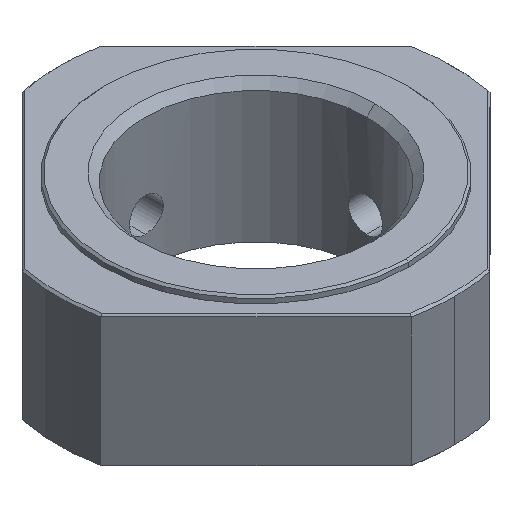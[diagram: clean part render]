
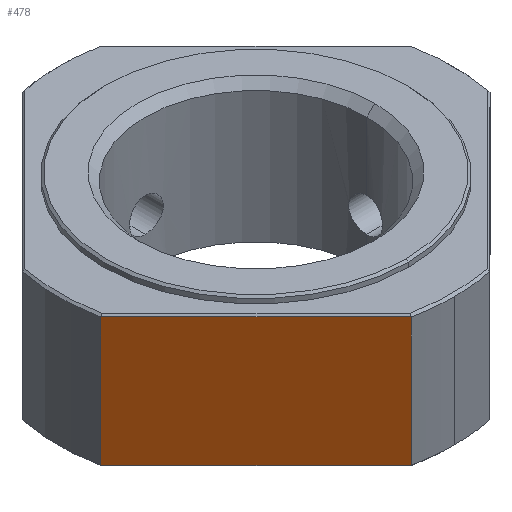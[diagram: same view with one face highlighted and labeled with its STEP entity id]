
A CAD part, isometric view. The second image highlights one B-rep face of the part: STEP entity #478.
In plain terms, the highlighted planar face has unit normal (-0.707, -0.707, 0).
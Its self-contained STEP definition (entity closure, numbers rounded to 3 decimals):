
#42 = AXIS2_PLACEMENT_3D ( 'NONE', #1313, #1312, #1311 ) ;
#103 = VECTOR ( 'NONE', #303, 1000. ) ;
#114 = VECTOR ( 'NONE', #1050, 1000. ) ;
#115 = VECTOR ( 'NONE', #1047, 1000. ) ;
#124 = VECTOR ( 'NONE', #1021, 1000. ) ;
#303 = DIRECTION ( 'NONE',  ( 0., 0., 1. ) ) ;
#304 = CARTESIAN_POINT ( 'NONE',  ( -5.952, -29.404, 41.677 ) ) ;
#305 = LINE ( 'NONE', #304, #103 ) ;
#478 = ADVANCED_FACE ( 'NONE', ( #611 ), #1314, .T. ) ;
#501 = EDGE_CURVE ( 'NONE', #1487, #1479, #305, .T. ) ;
#544 = EDGE_CURVE ( 'NONE', #1462, #1487, #1052, .T. ) ;
#545 = EDGE_CURVE ( 'NONE', #1479, #1459, #1049, .T. ) ;
#553 = EDGE_CURVE ( 'NONE', #1459, #1462, #1023, .T. ) ;
#611 = FACE_OUTER_BOUND ( 'NONE', #1582, .T. ) ;
#697 = CARTESIAN_POINT ( 'NONE',  ( -5.952, -29.404, 0.3 ) ) ;
#705 = CARTESIAN_POINT ( 'NONE',  ( -5.952, -29.404, 19.7 ) ) ;
#722 = CARTESIAN_POINT ( 'NONE',  ( -29.404, -5.952, 0.3 ) ) ;
#725 = CARTESIAN_POINT ( 'NONE',  ( -29.404, -5.952, 19.7 ) ) ;
#1021 = DIRECTION ( 'NONE',  ( 0., 0., -1. ) ) ;
#1022 = CARTESIAN_POINT ( 'NONE',  ( -29.404, -5.952, 41.677 ) ) ;
#1023 = LINE ( 'NONE', #1022, #124 ) ;
#1047 = DIRECTION ( 'NONE',  ( -0.707, 0.707, 0. ) ) ;
#1048 = CARTESIAN_POINT ( 'NONE',  ( -29.404, -5.952, 19.7 ) ) ;
#1049 = LINE ( 'NONE', #1048, #115 ) ;
#1050 = DIRECTION ( 'NONE',  ( 0.707, -0.707, 0. ) ) ;
#1051 = CARTESIAN_POINT ( 'NONE',  ( -5.952, -29.404, 0.3 ) ) ;
#1052 = LINE ( 'NONE', #1051, #114 ) ;
#1311 = DIRECTION ( 'NONE',  ( 0.707, -0.707, 0. ) ) ;
#1312 = DIRECTION ( 'NONE',  ( -0.707, -0.707, 0. ) ) ;
#1313 = CARTESIAN_POINT ( 'NONE',  ( 0., -35.355, 21. ) ) ;
#1314 = PLANE ( 'NONE',  #42 ) ;
#1459 = VERTEX_POINT ( 'NONE', #725 ) ;
#1462 = VERTEX_POINT ( 'NONE', #722 ) ;
#1479 = VERTEX_POINT ( 'NONE', #705 ) ;
#1487 = VERTEX_POINT ( 'NONE', #697 ) ;
#1582 = EDGE_LOOP ( 'NONE', ( #1630, #1631, #1629, #1620 ) ) ;
#1620 = ORIENTED_EDGE ( 'NONE', *, *, #545, .T. ) ;
#1629 = ORIENTED_EDGE ( 'NONE', *, *, #501, .T. ) ;
#1630 = ORIENTED_EDGE ( 'NONE', *, *, #553, .T. ) ;
#1631 = ORIENTED_EDGE ( 'NONE', *, *, #544, .T. ) ;
